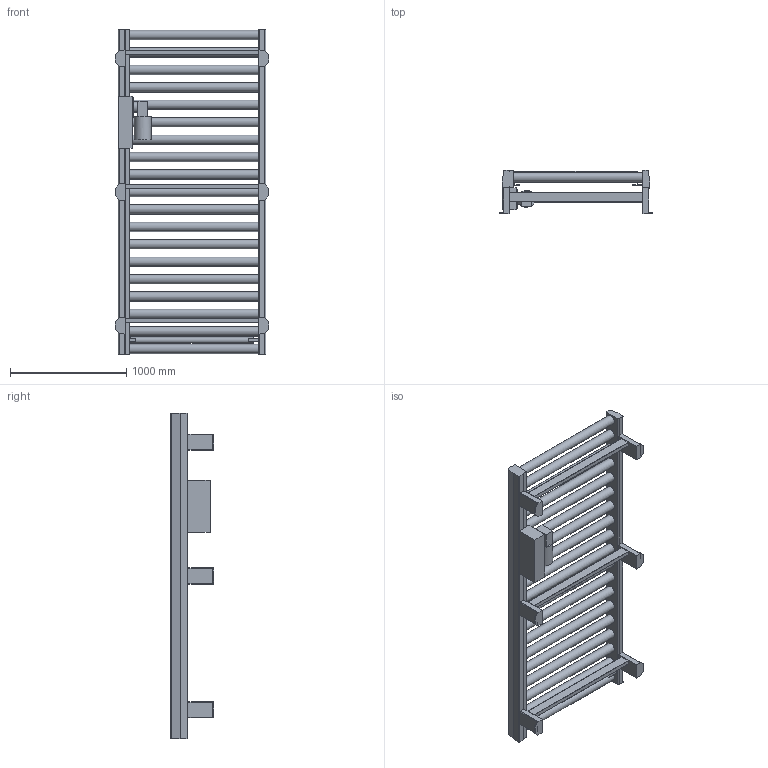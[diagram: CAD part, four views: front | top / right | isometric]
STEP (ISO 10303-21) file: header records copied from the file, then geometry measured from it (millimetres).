
FILE_DESCRIPTION((''),'2;1');
FILE_NAME('C:\Vault_Working_Folder\Designs\Inventor\Lättviktsmodeller\Maxi\IRKS 80-150-1150-2800.stp','2012-11-13T08:48:20',('martin.samuelsson'),(''),'Autodesk Inventor 2013','Autodesk Inventor 2013','');
FILE_SCHEMA(('AUTOMOTIVE_DESIGN { 1 0 10303 214 1 1 1 1 }'));
Length unit declared in the file: millimetre
Products named in the file (1): IRKS 80-150-1150-2800
Bounding box: 1322 x 370 x 2800 mm (x, y, z)
Volume: 196579863.9 mm3; surface area: 9977258 mm2
Topology: 6 solids, 6 shells, 194 faces, 499 edges, 328 vertices
Faces by surface type: plane 145, cylinder 49
Full cylindrical faces by diameter (mm): 50 x1, 80 x19, 90 x1, 145 x1, 160 x1
Entity records: 5936 total; most frequent: CARTESIAN_POINT 997, DIRECTION 972, ORIENTED_EDGE 950, EDGE_CURVE 475, VECTOR 368, LINE 368, VERTEX_POINT 327, AXIS2_PLACEMENT_3D 302
